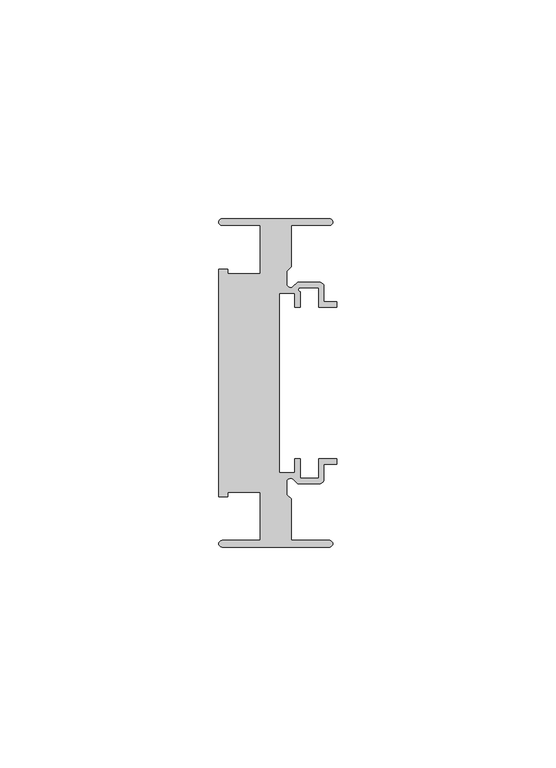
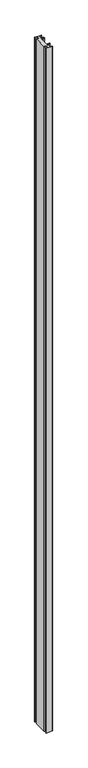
"""IFC4 building model written with IfcOpenShell, lengths in millimetres: member geometry, Прямоугольный импост : 7-AMG-2-Профиль 26Х75 Верх П."""

from ifc_helpers import new_model, si_unit, point, frame, frame_2d, origin, place, context, project, spatial, polyline, circle_curve, trimmed, segment, composite_curve, outline, extrude, source, transform, mapped, element, save


def member_0f264bdb(model_context):
    return source(origin(), model_context, "Body", "SweptSolid", [
        extrude(outline(composite_curve([segment(polyline([(-1.7, -37.5), (-26.25, -37.5)]), True, "CONTINUOUS"), segment(trimmed(circle_curve(frame_2d((-26.25, -36.75)), 0.75), [point((-26.25, -37.5))], [point((-26.25, -36.0))], False, "CARTESIAN"), True, "CONTINUOUS"), segment(polyline([(-26.25, -36.0), (-17.5, -36.0), (-17.5, -25.0), (-24.9359877, -25.0), (-24.9359877, -26.0), (-27.0, -26.0), (-27.0, 26.0), (-24.9359877, 26.0), (-24.9359877, 25.0), (-17.5, 25.0), (-17.5, 36.0), (-26.25, 36.0)]), True, "CONTINUOUS"), segment(trimmed(circle_curve(frame_2d((-26.25, 36.75)), 0.75), [point((-26.25, 36.0))], [point((-26.25, 37.5))], False, "CARTESIAN"), True, "CONTINUOUS"), segment(polyline([(-26.25, 37.5), (-1.7, 37.5)]), True, "CONTINUOUS"), segment(trimmed(circle_curve(frame_2d((-1.7, 36.75)), 0.75), [point((-1.7, 37.5))], [point((-1.7, 36.0))], False, "CARTESIAN"), True, "CONTINUOUS"), segment(polyline([(-1.7, 36.0), (-10.5, 36.0), (-10.5, 26.5029437), (-11.5, 25.5029437), (-11.5, 22.6727922)]), True, "CONTINUOUS"), segment(trimmed(circle_curve(frame_2d((-10.6, 22.6727922)), 0.9), [point((-11.5, 22.6727922))], [point((-9.9636039, 22.0363961))], True, "CARTESIAN"), True, "CONTINUOUS"), segment(polyline([(-9.9636039, 22.0363961), (-9.0, 23.0), (-4.0, 23.0)]), True, "CONTINUOUS"), segment(trimmed(circle_curve(frame_2d((-4.0, 22.0)), 1.0), [point((-4.0, 23.0))], [point((-3.0, 22.0))], False, "CARTESIAN"), True, "CONTINUOUS"), segment(polyline([(-3.0, 22.0), (-3.0, 18.55), (0.0, 18.55), (0.0, 17.35), (-4.2, 17.35), (-4.2, 21.8), (-8.5029437, 21.8)]), True, "CONTINUOUS"), segment(trimmed(circle_curve(frame_2d((-8.3343131, 21.3314262)), 0.4979937), [point((-8.5029437, 21.8))], [point((-8.45, 20.8470563))], True, "CARTESIAN"), True, "CONTINUOUS"), segment(polyline([(-8.45, 20.8470563), (-8.45, 17.35), (-9.65, 17.35), (-9.65, 20.55), (-13.15, 20.55), (-13.15, -20.55), (-9.65, -20.55), (-9.65, -17.35), (-8.45, -17.35), (-8.45, -21.8), (-4.2, -21.8), (-4.2, -17.35), (0.0, -17.35), (0.0, -18.55), (-3.0, -18.55), (-3.0, -22.0)]), True, "CONTINUOUS"), segment(trimmed(circle_curve(frame_2d((-4.0, -22.0)), 1.0), [point((-3.0, -22.0))], [point((-4.0, -23.0))], False, "CARTESIAN"), True, "CONTINUOUS"), segment(polyline([(-4.0, -23.0), (-9.0, -23.0), (-9.9636039, -22.0363961)]), True, "CONTINUOUS"), segment(trimmed(circle_curve(frame_2d((-10.6, -22.6727922)), 0.9), [point((-9.9636039, -22.0363961))], [point((-11.5, -22.6727922))], True, "CARTESIAN"), True, "CONTINUOUS"), segment(polyline([(-11.5, -22.6727922), (-11.5, -25.5029437), (-10.5, -26.5029437), (-10.5, -36.0), (-1.7, -36.0)]), True, "CONTINUOUS"), segment(trimmed(circle_curve(frame_2d((-1.7, -36.75)), 0.75), [point((-1.7, -36.0))], [point((-1.7, -37.5))], False, "CARTESIAN"), True, "CONTINUOUS")], self_intersect=False)), frame((0.0, 0.0, -2773.0), z_axis=(0.0, 0.0, 1.0), x_axis=(1.0, 0.0, 0.0)), (0.0, 0.0, 1.0), 2773.0),
    ])


if __name__ == "__main__":
    model = new_model("IFC4")
    model_context = context("Model", 3, world=origin())
    ifc_project = project(units=[si_unit("LENGTHUNIT", "METRE", prefix="MILLI")], contexts=[model_context])
    site = spatial("IfcSite", under=ifc_project)
    building = spatial("IfcBuilding", under=site)
    placement = place(None, origin())
    member_shape = member_0f264bdb(model_context)
    element("IfcMember", 1, ObjectType="Прямоугольный импост : 7-AMG-2-Профиль 26Х75 Верх П", at=placement, inside=building, context=model_context, shape_type="MappedRepresentation", body=[
        mapped(member_shape, transform((0.0, 0.0, 0.0), x_axis=(1.0, 0.0, 0.0), y_axis=(0.0, 1.0, 0.0), z_axis=(0.0, 0.0, 1.0))),
    ])
    save(model, "model.ifc")
